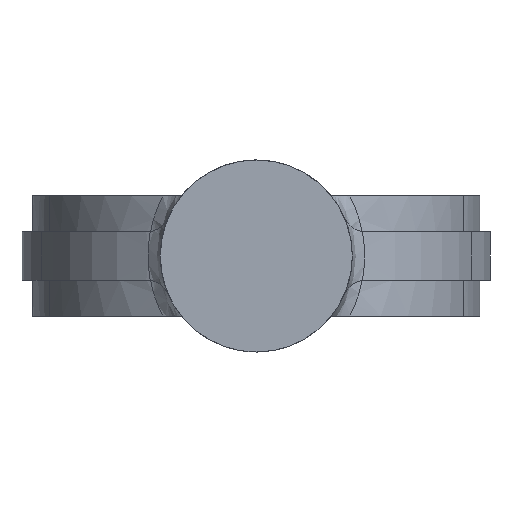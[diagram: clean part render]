
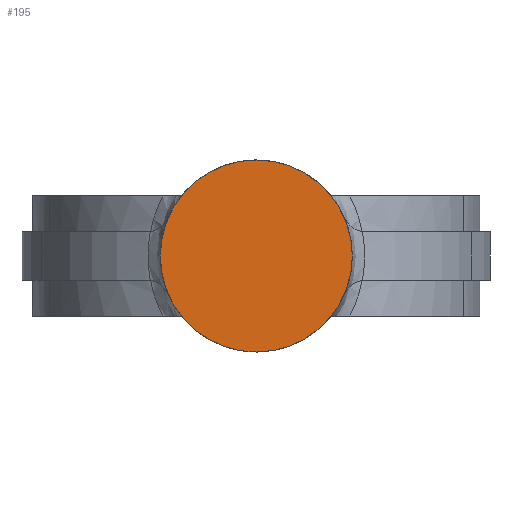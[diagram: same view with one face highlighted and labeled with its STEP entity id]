
A CAD part, front view. The second image highlights one B-rep face of the part: STEP entity #195.
In plain terms, the highlighted planar face has unit normal (0, -1, 0).
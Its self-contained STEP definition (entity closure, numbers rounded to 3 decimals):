
#195 = ADVANCED_FACE ( 'NONE', ( #326 ), #1464, .F. ) ;
#202 = ORIENTED_EDGE ( 'NONE', *, *, #2052, .F. ) ;
#267 = CARTESIAN_POINT ( 'NONE',  ( 0., -7.856, 0. ) ) ;
#275 = VERTEX_POINT ( 'NONE', #1485 ) ;
#326 = FACE_OUTER_BOUND ( 'NONE', #998, .T. ) ;
#492 = DIRECTION ( 'NONE',  ( -1., 0., 0. ) ) ;
#522 = EDGE_CURVE ( 'NONE', #275, #1779, #1339, .T. ) ;
#774 = AXIS2_PLACEMENT_3D ( 'NONE', #1200, #876, #1837 ) ;
#876 = DIRECTION ( 'NONE',  ( 0., 1., 0. ) ) ;
#996 = DIRECTION ( 'NONE',  ( 0., 1., 0. ) ) ;
#998 = EDGE_LOOP ( 'NONE', ( #202, #1258 ) ) ;
#1033 = AXIS2_PLACEMENT_3D ( 'NONE', #1796, #996, #492 ) ;
#1057 = DIRECTION ( 'NONE',  ( -1., 0., 0. ) ) ;
#1074 = DIRECTION ( 'NONE',  ( 0., 1., 0. ) ) ;
#1200 = CARTESIAN_POINT ( 'NONE',  ( 0., -7.856, 0. ) ) ;
#1258 = ORIENTED_EDGE ( 'NONE', *, *, #522, .F. ) ;
#1339 = CIRCLE ( 'NONE', #1490, 8. ) ;
#1440 = CIRCLE ( 'NONE', #774, 8. ) ;
#1464 = PLANE ( 'NONE',  #1033 ) ;
#1485 = CARTESIAN_POINT ( 'NONE',  ( 8., -7.856, 0. ) ) ;
#1490 = AXIS2_PLACEMENT_3D ( 'NONE', #267, #1074, #1057 ) ;
#1559 = CARTESIAN_POINT ( 'NONE',  ( -8., -7.856, 0. ) ) ;
#1779 = VERTEX_POINT ( 'NONE', #1559 ) ;
#1796 = CARTESIAN_POINT ( 'NONE',  ( 0., -7.856, 0. ) ) ;
#1837 = DIRECTION ( 'NONE',  ( -1., 0., 0. ) ) ;
#2052 = EDGE_CURVE ( 'NONE', #1779, #275, #1440, .T. ) ;
